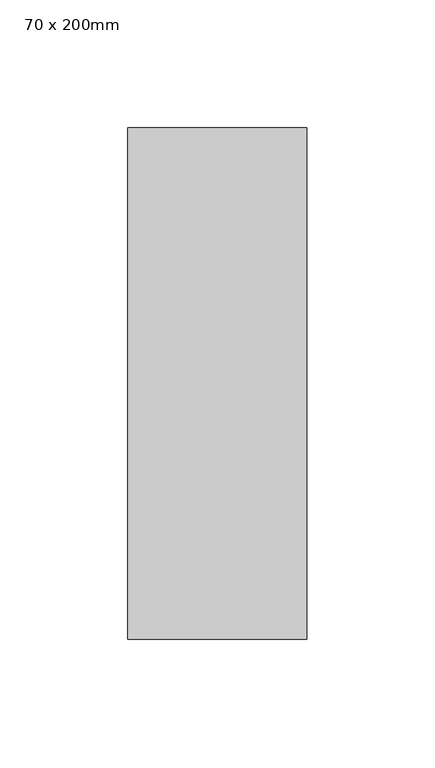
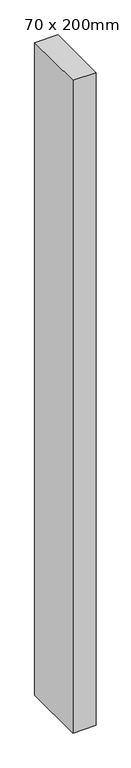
"""IFC4 building model written with IfcOpenShell, lengths in millimetres: member geometry, 矩形竖梃 : 70 x 200mm."""

import ifcopenshell
import ifcopenshell.guid

model = None  # the IFC model being written
_history = None  # IfcOwnerHistory: only IFC2X3 demands one
_inside = {}  # id of a spatial element -> (the spatial element, [elements in it])
_under = {}  # id of a project, library or spatial element -> (it, [spatial elements below it])
_declared = {}  # id of a project -> (the project, [libraries it declares])
_typed = {}  # id of a type object -> (the type object, [elements of that type])
_made_of = {}  # id of a material, layer set ... -> (it, [elements and type objects made of it])


def new_model(schema):
    """Start an empty IFC model of exactly this schema.

    Asked for "IFC4X3", IfcOpenShell would pick the latest addendum, in which some entities
    have other attributes; the version numbers below select the first issue.
    IFC2X3 requires an IfcOwnerHistory on every rooted entity: one is made here for all.
    """
    global model, _history
    if schema == "IFC4X3":
        model = ifcopenshell.file(schema_version=(4, 3, 0, 0))
    else:
        model = ifcopenshell.file(schema=schema)
    _inside.clear()
    _under.clear()
    _declared.clear()
    _typed.clear()
    _made_of.clear()
    _history = None
    if model.schema == "IFC2X3":
        org = make("IfcOrganization", Name="unknown")
        user = make(
            "IfcPersonAndOrganization",
            ThePerson=make("IfcPerson", FamilyName="unknown"),
            TheOrganization=org,
        )
        app = make(
            "IfcApplication",
            ApplicationDeveloper=org,
            Version="unknown",
            ApplicationFullName="unknown",
            ApplicationIdentifier="unknown",
        )
        _history = make(
            "IfcOwnerHistory",
            OwningUser=user,
            OwningApplication=app,
            ChangeAction="ADDED",
            CreationDate=0,
        )
    return model


def make(cls, **values):
    """One entity of the class cls with the attributes given. An attribute that is None is left unset."""
    return model.create_entity(
        cls, **{name: value for name, value in values.items() if value is not None}
    )


def rooted(cls, **values):
    """An entity with a GlobalId (a new one), such as an element, a storey or a relation."""
    return make(cls, GlobalId=ifcopenshell.guid.new(), OwnerHistory=_history, **values)


def si_unit(unit_type, name, prefix=None):
    """IfcSIUnit, for example si_unit("LENGTHUNIT", "METRE", prefix="MILLI")."""
    return make("IfcSIUnit", UnitType=unit_type, Prefix=prefix, Name=name)


def assignment(units):
    """IfcUnitAssignment: the units of a project."""
    return None if units is None else make("IfcUnitAssignment", Units=units)


def point(xyz):
    """IfcCartesianPoint."""
    return None if xyz is None else make("IfcCartesianPoint", Coordinates=xyz)


def direction(xyz):
    """IfcDirection."""
    return None if xyz is None else make("IfcDirection", DirectionRatios=xyz)


def frame(location, z_axis=None, x_axis=None):
    """IfcAxis2Placement3D, a coordinate frame: its origin and axes. An axis left out is left unset."""
    return make(
        "IfcAxis2Placement3D",
        Location=point(location),
        Axis=direction(z_axis),
        RefDirection=direction(x_axis),
    )


def origin():
    """The frame at (0, 0, 0) with its axes left unset."""
    return frame((0.0, 0.0, 0.0))


def place(relative_to, where):
    """IfcLocalPlacement: puts the frame where relative to a parent placement (None: the world)."""
    return make(
        "IfcLocalPlacement", PlacementRelTo=relative_to, RelativePlacement=where
    )


def context(
    kind, dimensions, precision=None, world=None, true_north=None, identifier=None
):
    """IfcGeometricRepresentationContext, for example the 3D "Model" context."""
    return make(
        "IfcGeometricRepresentationContext",
        ContextIdentifier=identifier,
        ContextType=kind,
        CoordinateSpaceDimension=dimensions,
        Precision=precision,
        WorldCoordinateSystem=world,
        TrueNorth=true_north,
    )


def project(units=None, contexts=None):
    """IfcProject with its units and contexts."""
    return rooted(
        "IfcProject",
        Name="project",
        RepresentationContexts=contexts,
        UnitsInContext=assignment(units),
    )


def spatial(cls, under=None, at=None, **own):
    """A site, building, storey or space (cls), placed at a placement, below another one or the project."""
    s = rooted(cls, ObjectPlacement=at, **own)
    if under is not None:
        _under.setdefault(under.id(), (under, []))[1].append(s)
    return s


def polyline(points):
    """IfcPolyline through the points."""
    return make("IfcPolyline", Points=[point(p) for p in points])


def outline(outer, holes=None, kind="AREA"):
    """IfcArbitraryClosedProfileDef: a profile drawn as a closed curve; with holes, ...WithVoids."""
    if holes is None:
        return make("IfcArbitraryClosedProfileDef", ProfileType=kind, OuterCurve=outer)
    return make(
        "IfcArbitraryProfileDefWithVoids",
        ProfileType=kind,
        OuterCurve=outer,
        InnerCurves=holes,
    )


def extrude(swept, where, along, depth):
    """IfcExtrudedAreaSolid: the profile swept, set in the frame where, extruded along a direction by depth."""
    return make(
        "IfcExtrudedAreaSolid",
        SweptArea=swept,
        Position=where,
        ExtrudedDirection=direction(along),
        Depth=depth,
    )


def shape(context_of_items, identifier, shape_type, items):
    """IfcShapeRepresentation: the items that make up one representation, for example the "Body"."""
    return make(
        "IfcShapeRepresentation",
        ContextOfItems=context_of_items,
        RepresentationIdentifier=identifier,
        RepresentationType=shape_type,
        Items=items,
    )


def source(mapping_origin, context_of_items, identifier, shape_type, items):
    """IfcRepresentationMap: a shape defined once, which mapped items show again and again."""
    return make(
        "IfcRepresentationMap",
        MappingOrigin=mapping_origin,
        MappedRepresentation=shape(context_of_items, identifier, shape_type, items),
    )


def transform(
    local_origin,
    x_axis=None,
    y_axis=None,
    z_axis=None,
    scale=None,
    scale2=None,
    scale3=None,
    uniform=True,
):
    """IfcCartesianTransformationOperator3D, or its non-uniform kind. x_axis, y_axis, z_axis: its Axis1, 2, 3."""
    if uniform:
        return make(
            "IfcCartesianTransformationOperator3D",
            Axis1=direction(x_axis),
            Axis2=direction(y_axis),
            LocalOrigin=point(local_origin),
            Scale=scale,
            Axis3=direction(z_axis),
        )
    return make(
        "IfcCartesianTransformationOperator3DnonUniform",
        Axis1=direction(x_axis),
        Axis2=direction(y_axis),
        LocalOrigin=point(local_origin),
        Scale=scale,
        Axis3=direction(z_axis),
        Scale2=scale2,
        Scale3=scale3,
    )


def mapped(mapping_source, mapping_target):
    """IfcMappedItem: shows the shape of a source again, moved by a transform."""
    return make(
        "IfcMappedItem", MappingSource=mapping_source, MappingTarget=mapping_target
    )


def made_of(thing, what):
    """Note that an element or type object is made of a material, layer set ...; save() writes the relation."""
    if what is not None:
        _made_of.setdefault(what.id(), (what, []))[1].append(thing)
    return thing


def element(
    cls,
    number,
    at=None,
    inside=None,
    cuts=None,
    type_object=None,
    material=None,
    context=None,
    identifier="Body",
    shape_type=None,
    held_by="IfcProductDefinitionShape",
    body=None,
    shapes=None,
    **own,
):
    """One element of the class cls, such as IfcWall. Its Tag is "e" and its number.

    at: its placement. inside: the storey or other place that contains it. cuts: it is an
    opening in that element (IfcRelVoidsElement). A single representation is given by context,
    identifier, shape_type and body (its items); several are given by shapes. held_by: the class
    of the entity that holds the representations. save() writes the other relations.
    """
    e = rooted(cls, Tag="e%d" % number, ObjectPlacement=at, **own)
    if body is not None:
        shapes = [shape(context, identifier, shape_type, body)]
    if shapes is not None:
        e.Representation = make(held_by, Representations=shapes)
    if inside is not None:
        _inside.setdefault(inside.id(), (inside, []))[1].append(e)
    if cuts is not None:
        rooted(
            "IfcRelVoidsElement", RelatingBuildingElement=cuts, RelatedOpeningElement=e
        )
    if type_object is not None:
        _typed.setdefault(type_object.id(), (type_object, []))[1].append(e)
    return made_of(e, material)


def aggregate(whole, parts):
    """IfcRelAggregates: a whole, such as a stair, and the parts it consists of."""
    return rooted("IfcRelAggregates", RelatingObject=whole, RelatedObjects=parts)


def save(model, path):
    """Write the relations noted so far, then the file.

    IfcRelAggregates (storeys below a building ...), IfcRelContainedInSpatialStructure (elements
    in a storey), IfcRelDefinesByType, IfcRelAssociatesMaterial and IfcRelDeclares: one each for
    every whole, place, type object, material and project.
    """
    for whole, parts in _under.values():
        aggregate(whole, parts)
    for where, things in _inside.values():
        rooted(
            "IfcRelContainedInSpatialStructure",
            RelatedElements=things,
            RelatingStructure=where,
        )
    for kind, things in _typed.values():
        rooted("IfcRelDefinesByType", RelatedObjects=things, RelatingType=kind)
    for what, things in _made_of.values():
        rooted("IfcRelAssociatesMaterial", RelatedObjects=things, RelatingMaterial=what)
    for by, libraries in _declared.values():
        rooted("IfcRelDeclares", RelatingContext=by, RelatedDefinitions=libraries)
    model.write(path)


def member_70_x_200mm_12a6a6c2(model_context):
    return source(origin(), model_context, "Body", "SweptSolid", [
        extrude(outline(polyline([(0.0, 100.0), (0.0, -100.0), (-70.0, -100.0), (-70.0, 100.0), (0.0, 100.0)])), frame((0.0, 0.0, -2090.0), z_axis=(0.0, 0.0, 1.0), x_axis=(1.0, 0.0, 0.0)), (0.0, 0.0, 1.0), 2090.0),
    ])


if __name__ == "__main__":
    model = new_model("IFC4")
    model_context = context("Model", 3, world=origin())
    ifc_project = project(units=[si_unit("LENGTHUNIT", "METRE", prefix="MILLI")], contexts=[model_context])
    site = spatial("IfcSite", under=ifc_project)
    building = spatial("IfcBuilding", under=site)
    placement = place(None, origin())
    member_70_x_200mm_shape = member_70_x_200mm_12a6a6c2(model_context)
    element("IfcMember", 1, ObjectType="矩形竖梃 : 70 x 200mm", at=placement, inside=building, context=model_context, shape_type="MappedRepresentation", body=[
        mapped(member_70_x_200mm_shape, transform((0.0, 0.0, 0.0), x_axis=(1.0, 0.0, 0.0), y_axis=(0.0, 1.0, 0.0), z_axis=(0.0, 0.0, 1.0))),
    ])
    save(model, "model.ifc")
